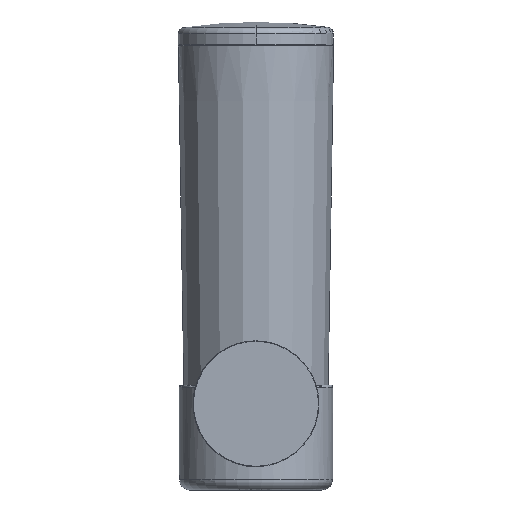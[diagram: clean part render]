
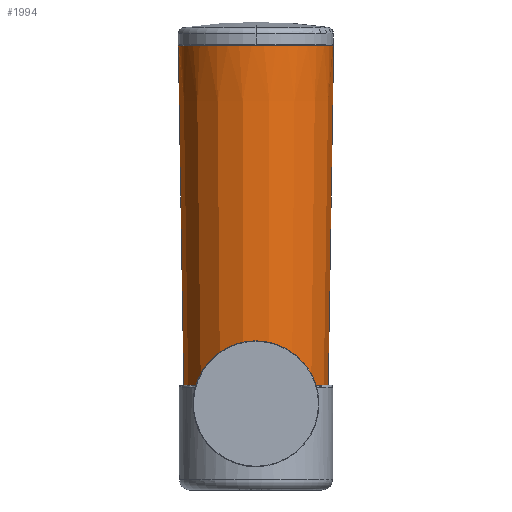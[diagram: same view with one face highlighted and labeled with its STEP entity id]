
A CAD part, front view. The second image highlights one B-rep face of the part: STEP entity #1994.
In plain terms, the highlighted conical face has half-angle 0.924 degrees and reference radius 34 mm.
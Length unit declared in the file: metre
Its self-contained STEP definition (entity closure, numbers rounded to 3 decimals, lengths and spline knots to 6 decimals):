
#32=VERTEX_POINT('',#33);
#33=CARTESIAN_POINT('',(-0.036997,0.0505,0.170701));
#38=CARTESIAN_POINT('',(0.036997,0.0505,0.170701));
#40=EDGE_CURVE('',#41,#32,#43,.T.);
#41=VERTEX_POINT('',#42);
#42=CARTESIAN_POINT('',(0.036997,0.0505,0.170701));
#43=(B_SPLINE_CURVE(3,(#38,#44,#45,#46),.UNSPECIFIED.,.F.,.U.)B_SPLINE_CURVE_WITH_KNOTS(
  (4,4),(0.0,1.0),.UNSPECIFIED.)BOUNDED_CURVE()CURVE()GEOMETRIC_REPRESENTATION_ITEM(
  )RATIONAL_B_SPLINE_CURVE((1.0,0.333,0.333,1.0)
  )REPRESENTATION_ITEM(''));
#44=CARTESIAN_POINT('',(0.036997,-0.023493,
  0.170701));
#45=CARTESIAN_POINT('',(-0.036997,-0.023493,
  0.170701));
#46=CARTESIAN_POINT('',(-0.036997,0.0505,0.170701));
#162=CONICAL_SURFACE('',#163,0.034,0.016);
#163=AXIS2_PLACEMENT_3D('',#164,#165,#166);
#164=CARTESIAN_POINT('',(0.0,0.0505,-0.015095));
#165=DIRECTION('',(0.0,0.0,1.0));
#166=DIRECTION('',(1.0,0.0,0.0));
#173=VERTEX_POINT('',#174);
#174=CARTESIAN_POINT('',(-0.034,0.0505,-0.015095));
#181=EDGE_CURVE('',#173,#32,#182,.T.);
#182=LINE('',#183,#184);
#183=CARTESIAN_POINT('',(-0.034,0.0505,-0.015095));
#184=VECTOR('',#185,1.);
#185=DIRECTION('',(-0.016,0.0,1.));
#194=EDGE_CURVE('',#195,#41,#197,.T.);
#195=VERTEX_POINT('',#196);
#196=CARTESIAN_POINT('',(0.034,0.0505,-0.015095));
#197=LINE('',#198,#199);
#198=CARTESIAN_POINT('',(0.034,0.0505,-0.015095));
#199=VECTOR('',#200,1.);
#200=DIRECTION('',(0.016,0.0,1.));
#683=CARTESIAN_POINT('',(-0.034,0.0505,-0.015095));
#684=EDGE_CURVE('',#173,#195,#685,.T.);
#685=(B_SPLINE_CURVE(3,(#683,#686,#687,#688),.UNSPECIFIED.,.F.,.U.)B_SPLINE_CURVE_WITH_KNOTS(
  (4,4),(0.0,1.0),.UNSPECIFIED.)BOUNDED_CURVE()CURVE()GEOMETRIC_REPRESENTATION_ITEM(
  )RATIONAL_B_SPLINE_CURVE((1.0,0.333,0.333,1.0)
  )REPRESENTATION_ITEM(''));
#686=CARTESIAN_POINT('',(-0.034,-0.0175,-0.015095));
#687=CARTESIAN_POINT('',(0.034,-0.0175,-0.015095));
#688=CARTESIAN_POINT('',(0.034,0.0505,-0.015095));
#1991=FACE_OUTER_BOUND('',#1995,.T.);
#1994=ADVANCED_FACE('',(#1991),#162,.T.);
#1995=EDGE_LOOP('',(#1996,#1997,#1998,#1999));
#1996=ORIENTED_EDGE('',*,*,#181,.F.);
#1997=ORIENTED_EDGE('',*,*,#684,.T.);
#1998=ORIENTED_EDGE('',*,*,#194,.T.);
#1999=ORIENTED_EDGE('',*,*,#40,.T.);
